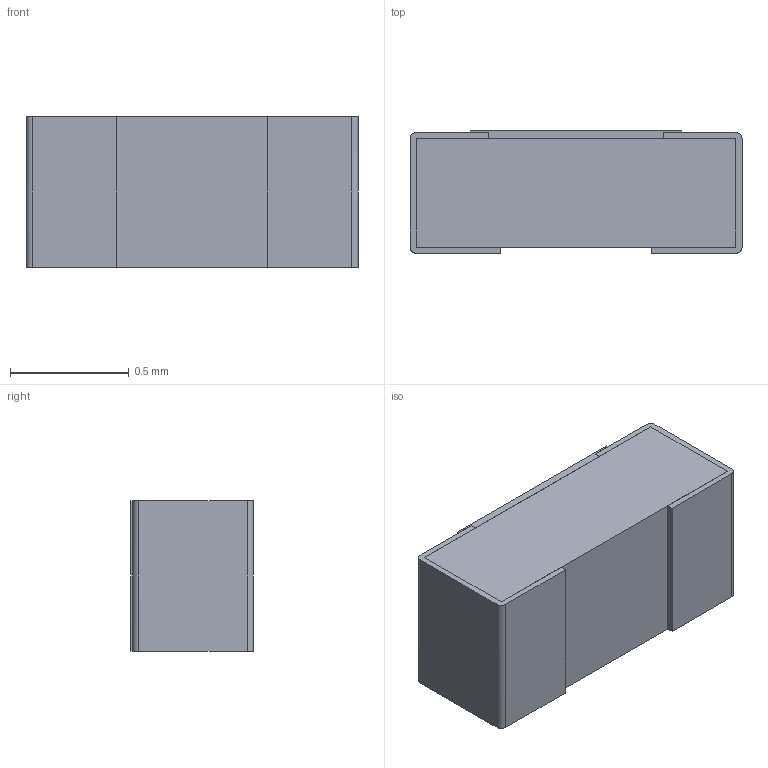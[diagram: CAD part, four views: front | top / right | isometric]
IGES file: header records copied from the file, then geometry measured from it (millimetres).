
Global section: file name: M55342-01; native system: Autodesk Inventor LT ; preprocessor: unknown; author: Neil; date: 20190911.151131; units: inch
Bounding box: 1.4 x 0.52 x 0.64 mm (x, y, z)
Volume: 0.4 mm3; surface area: 8.6 mm2
Topology: 5 solids, 5 shells, 50 faces, 120 edges, 80 vertices
Faces by surface type: bspline 50
